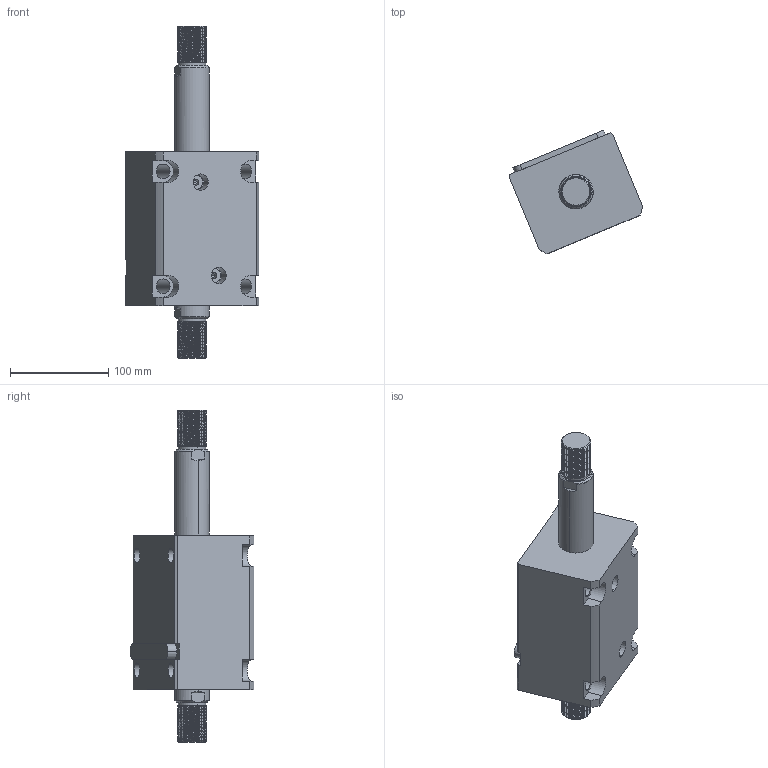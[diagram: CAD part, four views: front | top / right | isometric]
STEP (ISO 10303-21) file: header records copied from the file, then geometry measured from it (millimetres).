
FILE_DESCRIPTION (( 'STEP AP214' ), '1' );
FILE_NAME ('chtb-lw63x75w_asm.STEP', '2018-05-18T08:51:03', ( 'Windows' ), ( 'Microsoft' ), 'SwSTEP 2.0', 'SolidWorks 2015', '' );
FILE_SCHEMA (( 'AUTOMOTIVE_DESIGN' ));
Length unit declared in the file: millimetre
Products named in the file (5): CHTB-SW63X75WHSG; CHTB-LW63X75NBT; CHTB-LA63PJ; CHTB-63QG; chtb-lw63x75w_asm
Assembly tree (4 placements, depth 2):
  chtb-lw63x75w_asm
    CHTB-63QG
    CHTB-LA63PJ
    CHTB-LW63X75NBT
    CHTB-SW63X75WHSG
Bounding box: 135.77 x 126.06 x 338 mm (x, y, z)
Volume: 1499642.6 mm3; surface area: 201236.1 mm2
Topology: 4 solids, 4 shells, 306 faces, 889 edges, 601 vertices
Faces by surface type: cylinder 204, plane 58, bspline 16, cone 16, torus 12
Entity records: 27878 total; most frequent: CARTESIAN_POINT 20531, ORIENTED_EDGE 1770, DIRECTION 1228, EDGE_CURVE 885, VERTEX_POINT 601, AXIS2_PLACEMENT_3D 458, EDGE_LOOP 336, LINE 312
